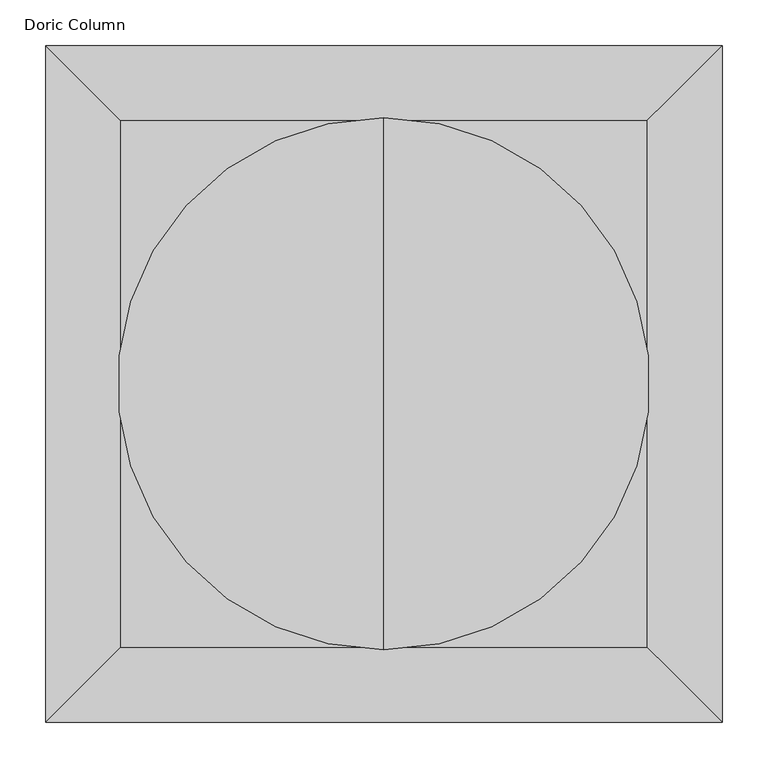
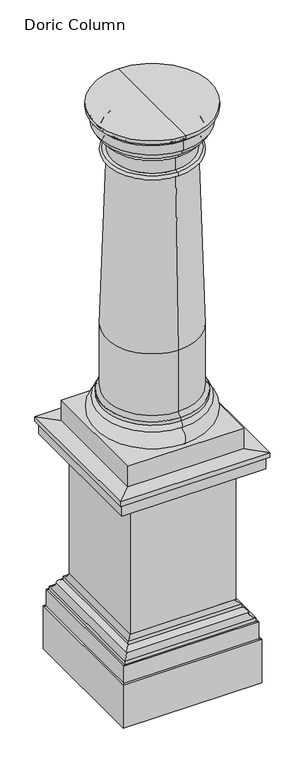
"""IFC4 building model written with IfcOpenShell, lengths in millimetres: column geometry, Doric Column : 16'  Height (10 2/3 x Dia.)."""

import ifcopenshell
import ifcopenshell.guid

model = None  # the IFC model being written
_history = None  # IfcOwnerHistory: only IFC2X3 demands one
_inside = {}  # id of a spatial element -> (the spatial element, [elements in it])
_under = {}  # id of a project, library or spatial element -> (it, [spatial elements below it])
_declared = {}  # id of a project -> (the project, [libraries it declares])
_typed = {}  # id of a type object -> (the type object, [elements of that type])
_made_of = {}  # id of a material, layer set ... -> (it, [elements and type objects made of it])


def new_model(schema):
    """Start an empty IFC model of exactly this schema.

    Asked for "IFC4X3", IfcOpenShell would pick the latest addendum, in which some entities
    have other attributes; the version numbers below select the first issue.
    IFC2X3 requires an IfcOwnerHistory on every rooted entity: one is made here for all.
    """
    global model, _history
    if schema == "IFC4X3":
        model = ifcopenshell.file(schema_version=(4, 3, 0, 0))
    else:
        model = ifcopenshell.file(schema=schema)
    _inside.clear()
    _under.clear()
    _declared.clear()
    _typed.clear()
    _made_of.clear()
    _history = None
    if model.schema == "IFC2X3":
        org = make("IfcOrganization", Name="unknown")
        user = make(
            "IfcPersonAndOrganization",
            ThePerson=make("IfcPerson", FamilyName="unknown"),
            TheOrganization=org,
        )
        app = make(
            "IfcApplication",
            ApplicationDeveloper=org,
            Version="unknown",
            ApplicationFullName="unknown",
            ApplicationIdentifier="unknown",
        )
        _history = make(
            "IfcOwnerHistory",
            OwningUser=user,
            OwningApplication=app,
            ChangeAction="ADDED",
            CreationDate=0,
        )
    return model


def make(cls, **values):
    """One entity of the class cls with the attributes given. An attribute that is None is left unset."""
    return model.create_entity(
        cls, **{name: value for name, value in values.items() if value is not None}
    )


def rooted(cls, **values):
    """An entity with a GlobalId (a new one), such as an element, a storey or a relation."""
    return make(cls, GlobalId=ifcopenshell.guid.new(), OwnerHistory=_history, **values)


def si_unit(unit_type, name, prefix=None):
    """IfcSIUnit, for example si_unit("LENGTHUNIT", "METRE", prefix="MILLI")."""
    return make("IfcSIUnit", UnitType=unit_type, Prefix=prefix, Name=name)


def assignment(units):
    """IfcUnitAssignment: the units of a project."""
    return None if units is None else make("IfcUnitAssignment", Units=units)


def point(xyz):
    """IfcCartesianPoint."""
    return None if xyz is None else make("IfcCartesianPoint", Coordinates=xyz)


def direction(xyz):
    """IfcDirection."""
    return None if xyz is None else make("IfcDirection", DirectionRatios=xyz)


def frame(location, z_axis=None, x_axis=None):
    """IfcAxis2Placement3D, a coordinate frame: its origin and axes. An axis left out is left unset."""
    return make(
        "IfcAxis2Placement3D",
        Location=point(location),
        Axis=direction(z_axis),
        RefDirection=direction(x_axis),
    )


def origin():
    """The frame at (0, 0, 0) with its axes left unset."""
    return frame((0.0, 0.0, 0.0))


def place(relative_to, where):
    """IfcLocalPlacement: puts the frame where relative to a parent placement (None: the world)."""
    return make(
        "IfcLocalPlacement", PlacementRelTo=relative_to, RelativePlacement=where
    )


def context(
    kind, dimensions, precision=None, world=None, true_north=None, identifier=None
):
    """IfcGeometricRepresentationContext, for example the 3D "Model" context."""
    return make(
        "IfcGeometricRepresentationContext",
        ContextIdentifier=identifier,
        ContextType=kind,
        CoordinateSpaceDimension=dimensions,
        Precision=precision,
        WorldCoordinateSystem=world,
        TrueNorth=true_north,
    )


def project(units=None, contexts=None):
    """IfcProject with its units and contexts."""
    return rooted(
        "IfcProject",
        Name="project",
        RepresentationContexts=contexts,
        UnitsInContext=assignment(units),
    )


def spatial(cls, under=None, at=None, **own):
    """A site, building, storey or space (cls), placed at a placement, below another one or the project."""
    s = rooted(cls, ObjectPlacement=at, **own)
    if under is not None:
        _under.setdefault(under.id(), (under, []))[1].append(s)
    return s


def polyline(points):
    """IfcPolyline through the points."""
    return make("IfcPolyline", Points=[point(p) for p in points])


def circle_curve(where, radius):
    """IfcCircle in the frame where."""
    return make("IfcCircle", Position=where, Radius=radius)


def ellipse_curve(where, semi_axis1, semi_axis2):
    """IfcEllipse in the frame where."""
    return make(
        "IfcEllipse", Position=where, SemiAxis1=semi_axis1, SemiAxis2=semi_axis2
    )


def trimmed(basis, trim1, trim2, sense, master):
    """IfcTrimmedCurve: the piece of a basis curve between two trims."""
    return make(
        "IfcTrimmedCurve",
        BasisCurve=basis,
        Trim1=trim1,
        Trim2=trim2,
        SenseAgreement=sense,
        MasterRepresentation=master,
    )


def outline(outer, holes=None, kind="AREA"):
    """IfcArbitraryClosedProfileDef: a profile drawn as a closed curve; with holes, ...WithVoids."""
    if holes is None:
        return make("IfcArbitraryClosedProfileDef", ProfileType=kind, OuterCurve=outer)
    return make(
        "IfcArbitraryProfileDefWithVoids",
        ProfileType=kind,
        OuterCurve=outer,
        InnerCurves=holes,
    )


def extrude(swept, where, along, depth):
    """IfcExtrudedAreaSolid: the profile swept, set in the frame where, extruded along a direction by depth."""
    return make(
        "IfcExtrudedAreaSolid",
        SweptArea=swept,
        Position=where,
        ExtrudedDirection=direction(along),
        Depth=depth,
    )


def faces_of(points, faces, orient=None, outer=None):
    """IfcFace entities. A face is a list of loops; a loop is a list of indices into points, from 0.

    orient and outer hold one flag for each loop. By default every Orientation is true, the
    first loop of a face is its IfcFaceOuterBound and the others are IfcFaceBound.
    """
    made = []
    for i, loops in enumerate(faces):
        bounds = []
        for j, loop in enumerate(loops):
            is_outer = j == 0 if outer is None else outer[i][j]
            bounds.append(
                make(
                    "IfcFaceOuterBound" if is_outer else "IfcFaceBound",
                    Bound=make("IfcPolyLoop", Polygon=[points[k] for k in loop]),
                    Orientation=True if orient is None else orient[i][j],
                )
            )
        made.append(make("IfcFace", Bounds=bounds))
    return made


def faceted_brep(points, faces, orient=None, outer=None, voids=None):
    """IfcFacetedBrep: a solid bounded by flat faces; with voids (closed shells), ...WithVoids."""
    shared = [point(p) for p in points]
    hull = make("IfcClosedShell", CfsFaces=faces_of(shared, faces, orient, outer))
    if voids is None:
        return make("IfcFacetedBrep", Outer=hull)
    return make(
        "IfcFacetedBrepWithVoids",
        Outer=hull,
        Voids=[
            make(cls, CfsFaces=faces_of(shared, fs, o, b)) for cls, fs, o, b in voids
        ],
    )


def shape(context_of_items, identifier, shape_type, items):
    """IfcShapeRepresentation: the items that make up one representation, for example the "Body"."""
    return make(
        "IfcShapeRepresentation",
        ContextOfItems=context_of_items,
        RepresentationIdentifier=identifier,
        RepresentationType=shape_type,
        Items=items,
    )


def source(mapping_origin, context_of_items, identifier, shape_type, items):
    """IfcRepresentationMap: a shape defined once, which mapped items show again and again."""
    return make(
        "IfcRepresentationMap",
        MappingOrigin=mapping_origin,
        MappedRepresentation=shape(context_of_items, identifier, shape_type, items),
    )


def transform(
    local_origin,
    x_axis=None,
    y_axis=None,
    z_axis=None,
    scale=None,
    scale2=None,
    scale3=None,
    uniform=True,
):
    """IfcCartesianTransformationOperator3D, or its non-uniform kind. x_axis, y_axis, z_axis: its Axis1, 2, 3."""
    if uniform:
        return make(
            "IfcCartesianTransformationOperator3D",
            Axis1=direction(x_axis),
            Axis2=direction(y_axis),
            LocalOrigin=point(local_origin),
            Scale=scale,
            Axis3=direction(z_axis),
        )
    return make(
        "IfcCartesianTransformationOperator3DnonUniform",
        Axis1=direction(x_axis),
        Axis2=direction(y_axis),
        LocalOrigin=point(local_origin),
        Scale=scale,
        Axis3=direction(z_axis),
        Scale2=scale2,
        Scale3=scale3,
    )


def mapped(mapping_source, mapping_target):
    """IfcMappedItem: shows the shape of a source again, moved by a transform."""
    return make(
        "IfcMappedItem", MappingSource=mapping_source, MappingTarget=mapping_target
    )


def made_of(thing, what):
    """Note that an element or type object is made of a material, layer set ...; save() writes the relation."""
    if what is not None:
        _made_of.setdefault(what.id(), (what, []))[1].append(thing)
    return thing


def element(
    cls,
    number,
    at=None,
    inside=None,
    cuts=None,
    type_object=None,
    material=None,
    context=None,
    identifier="Body",
    shape_type=None,
    held_by="IfcProductDefinitionShape",
    body=None,
    shapes=None,
    **own,
):
    """One element of the class cls, such as IfcWall. Its Tag is "e" and its number.

    at: its placement. inside: the storey or other place that contains it. cuts: it is an
    opening in that element (IfcRelVoidsElement). A single representation is given by context,
    identifier, shape_type and body (its items); several are given by shapes. held_by: the class
    of the entity that holds the representations. save() writes the other relations.
    """
    e = rooted(cls, Tag="e%d" % number, ObjectPlacement=at, **own)
    if body is not None:
        shapes = [shape(context, identifier, shape_type, body)]
    if shapes is not None:
        e.Representation = make(held_by, Representations=shapes)
    if inside is not None:
        _inside.setdefault(inside.id(), (inside, []))[1].append(e)
    if cuts is not None:
        rooted(
            "IfcRelVoidsElement", RelatingBuildingElement=cuts, RelatedOpeningElement=e
        )
    if type_object is not None:
        _typed.setdefault(type_object.id(), (type_object, []))[1].append(e)
    return made_of(e, material)


def aggregate(whole, parts):
    """IfcRelAggregates: a whole, such as a stair, and the parts it consists of."""
    return rooted("IfcRelAggregates", RelatingObject=whole, RelatedObjects=parts)


def save(model, path):
    """Write the relations noted so far, then the file.

    IfcRelAggregates (storeys below a building ...), IfcRelContainedInSpatialStructure (elements
    in a storey), IfcRelDefinesByType, IfcRelAssociatesMaterial and IfcRelDeclares: one each for
    every whole, place, type object, material and project.
    """
    for whole, parts in _under.values():
        aggregate(whole, parts)
    for where, things in _inside.values():
        rooted(
            "IfcRelContainedInSpatialStructure",
            RelatedElements=things,
            RelatingStructure=where,
        )
    for kind, things in _typed.values():
        rooted("IfcRelDefinesByType", RelatedObjects=things, RelatingType=kind)
    for what, things in _made_of.values():
        rooted("IfcRelAssociatesMaterial", RelatedObjects=things, RelatingMaterial=what)
    for by, libraries in _declared.values():
        rooted("IfcRelDeclares", RelatingContext=by, RelatedDefinitions=libraries)
    model.write(path)


def plane_surface(at):
    """IfcPlane: the flat surface through the origin of the frame at, square to its z axis."""
    return make("IfcPlane", Position=at)


def cylinder_surface(at, radius):
    """IfcCylindricalSurface: all points at the distance radius from the z axis of the frame at."""
    return make("IfcCylindricalSurface", Position=at, Radius=radius)


def revolved_surface(curve, axis_point, axis_direction):
    """IfcSurfaceOfRevolution: the curve turned about the line through axis_point along axis_direction."""
    return make(
        "IfcSurfaceOfRevolution",
        SweptCurve=make("IfcArbitraryOpenProfileDef", ProfileType="CURVE", Curve=curve),
        AxisPosition=make("IfcAxis1Placement", Location=point(axis_point), Axis=direction(axis_direction)),
    )


def advanced_brep(points, edges, surfaces, faces):
    """IfcAdvancedBrep: a solid bounded by faces that lie on surfaces and meet in shared edges.

    An edge is (start, end): straight between two places in points (the first is 0);
    or (start, end, curve); or (start, end, curve, False) where it runs against its curve.
    A face is (place in surfaces, loops), or (place, loops, False) where it looks against
    its surface's normal. A loop lists edges by number (the first is 1), with a minus sign
    where the edge is run from its end to its start. The first loop is the outer one.
    """
    corners = [point(p) for p in points]
    vertices = [make("IfcVertexPoint", VertexGeometry=c) for c in corners]
    made = []
    for start, end, *more in edges:
        made.append(
            make(
                "IfcEdgeCurve",
                EdgeStart=vertices[start],
                EdgeEnd=vertices[end],
                EdgeGeometry=more[0] if more else make("IfcPolyline", Points=[corners[start], corners[end]]),
                SameSense=more[1] if len(more) > 1 else True,
            )
        )
    hull = []
    for where, loops, *sense in faces:
        bounds = []
        for j, loop in enumerate(loops):
            ring = [make("IfcOrientedEdge", EdgeElement=made[abs(k) - 1], Orientation=k > 0) for k in loop]
            bounds.append(
                make(
                    "IfcFaceOuterBound" if j == 0 else "IfcFaceBound",
                    Bound=make("IfcEdgeLoop", EdgeList=ring),
                    Orientation=True,
                )
            )
        hull.append(make("IfcAdvancedFace", Bounds=bounds, FaceSurface=surfaces[where], SameSense=sense[0] if sense else True))
    return make("IfcAdvancedBrep", Outer=make("IfcClosedShell", CfsFaces=hull))


def doric_column_f5a78e18(model_context):
    return source(origin(), model_context, "Body", "SolidModel", [
        extrude(outline(polyline([(263.525, 263.525), (263.525, -263.525), (-263.525, -263.525), (-263.525, 263.525), (263.525, 263.525)])), frame((0.0, 0.0, 419.1), z_axis=(0.0, 0.0, 1.0), x_axis=(1.0, 0.0, 0.0)), (0.0, 0.0, 1.0), 685.8),
        advanced_brep(
        [(345.4451463, 345.4451463, 0.0), (345.4451463, 345.4451463, 228.6), (345.4451463, -345.4451463, 228.6), (345.4451463, -345.4451463, 0.0), (228.6, 228.6, 0.0), (228.6, -228.6, 0.0), (228.6, 228.6, 419.1), (228.6, -228.6, 419.1), (262.8951463, 262.8951463, 419.1), (262.8951463, -262.8951463, 419.1), (281.9451463, 281.9451463, 400.05), (281.9451463, -281.9451463, 400.05), (281.9451463, 281.9451463, 381.0), (281.9451463, -281.9451463, 381.0), (304.1701463, 304.1701463, 358.775), (304.1701463, -304.1701463, 358.775), (326.3951463, 326.3951463, 336.55), (326.3951463, -326.3951463, 336.55), (326.3951463, 326.3951463, 317.5), (326.3951463, -326.3951463, 317.5), (335.9201463, 335.9201463, 317.5), (335.9201463, -335.9201463, 317.5), (335.9201463, 335.9201463, 228.6), (335.9201463, -335.9201463, 228.6), (-345.4451463, -345.4451463, 228.6), (-345.4451463, -345.4451463, 0.0), (-228.6, -228.6, 0.0), (-228.6, -228.6, 419.1), (-262.8951463, -262.8951463, 419.1), (-281.9451463, -281.9451463, 400.05), (-281.9451463, -281.9451463, 381.0), (-304.1701463, -304.1701463, 358.775), (-326.3951463, -326.3951463, 336.55), (-326.3951463, -326.3951463, 317.5), (-335.9201463, -335.9201463, 317.5), (-335.9201463, -335.9201463, 228.6), (-345.4451463, 345.4451463, 228.6), (-345.4451463, 345.4451463, 0.0), (-228.6, 228.6, 0.0), (-228.6, 228.6, 419.1), (-262.8951463, 262.8951463, 419.1), (-281.9451463, 281.9451463, 400.05), (-281.9451463, 281.9451463, 381.0), (-304.1701463, 304.1701463, 358.775), (-326.3951463, 326.3951463, 336.55), (-326.3951463, 326.3951463, 317.5), (-335.9201463, 335.9201463, 317.5), (-335.9201463, 335.9201463, 228.6)],
        [
            (0, 1),
            (1, 2),
            (2, 3),
            (3, 0),
            (4, 0),
            (3, 5),
            (5, 4),
            (6, 4),
            (5, 7),
            (7, 6),
            (8, 6),
            (7, 9),
            (9, 8),
            (10, 8, ellipse_curve(frame((281.9451463, 281.9451463, 419.1), z_axis=(-0.7071067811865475, 0.7071067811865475, 0.0), x_axis=(-0.7071067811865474, -0.7071067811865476, 0.0)), 26.9407684, 19.05)),
            (9, 11, ellipse_curve(frame((281.9451463, -281.9451463, 419.1), z_axis=(-0.7071067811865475, -0.7071067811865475, 0.0), x_axis=(0.7071067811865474, -0.7071067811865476, 0.0)), 26.9407684, 19.05)),
            (11, 10),
            (12, 10),
            (11, 13),
            (13, 12),
            (14, 12, ellipse_curve(frame((281.9451463, 281.9451463, 358.775), z_axis=(0.7071067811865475, -0.7071067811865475, 0.0), x_axis=(0.7071067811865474, 0.7071067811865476, 0.0)), 31.4308964, 22.225)),
            (13, 15, ellipse_curve(frame((281.9451463, -281.9451463, 358.775), z_axis=(0.7071067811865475, 0.7071067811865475, 0.0), x_axis=(-0.7071067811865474, 0.7071067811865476, 0.0)), 31.4308964, 22.225)),
            (15, 14),
            (16, 14, ellipse_curve(frame((326.3951463, 326.3951463, 358.775), z_axis=(-0.7071067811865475, 0.7071067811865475, 0.0), x_axis=(-0.7071067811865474, -0.7071067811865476, 0.0)), 31.4308964, 22.225)),
            (15, 17, ellipse_curve(frame((326.3951463, -326.3951463, 358.775), z_axis=(-0.7071067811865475, -0.7071067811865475, 0.0), x_axis=(0.7071067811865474, -0.7071067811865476, 0.0)), 31.4308964, 22.225)),
            (17, 16),
            (18, 16),
            (17, 19),
            (19, 18),
            (20, 18),
            (19, 21),
            (21, 20),
            (22, 20),
            (21, 23),
            (23, 22),
            (1, 22),
            (23, 2),
            (2, 24),
            (24, 25),
            (25, 3),
            (25, 26),
            (26, 5),
            (26, 27),
            (27, 7),
            (27, 28),
            (28, 9),
            (28, 29, ellipse_curve(frame((-281.9451463, -281.9451463, 419.1), z_axis=(-0.7071067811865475, 0.7071067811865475, 0.0), x_axis=(-0.7071067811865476, -0.7071067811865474, 0.0)), 26.9407684, 19.05)),
            (29, 11),
            (29, 30),
            (30, 13),
            (30, 31, ellipse_curve(frame((-281.9451463, -281.9451463, 358.775), z_axis=(0.7071067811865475, -0.7071067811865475, 0.0), x_axis=(0.7071067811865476, 0.7071067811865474, 0.0)), 31.4308964, 22.225)),
            (31, 15),
            (31, 32, ellipse_curve(frame((-326.3951463, -326.3951463, 358.775), z_axis=(-0.7071067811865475, 0.7071067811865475, 0.0), x_axis=(-0.7071067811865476, -0.7071067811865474, 0.0)), 31.4308964, 22.225)),
            (32, 17),
            (32, 33),
            (33, 19),
            (33, 34),
            (34, 21),
            (34, 35),
            (35, 23),
            (35, 24),
            (24, 36),
            (36, 37),
            (37, 25),
            (37, 38),
            (38, 26),
            (38, 39),
            (39, 27),
            (39, 40),
            (40, 28),
            (40, 41, ellipse_curve(frame((-281.9451463, 281.9451463, 419.1), z_axis=(0.7071067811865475, 0.7071067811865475, 0.0), x_axis=(-0.7071067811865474, 0.7071067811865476, 0.0)), 26.9407684, 19.05)),
            (41, 29),
            (41, 42),
            (42, 30),
            (42, 43, ellipse_curve(frame((-281.9451463, 281.9451463, 358.775), z_axis=(-0.7071067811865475, -0.7071067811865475, 0.0), x_axis=(0.7071067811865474, -0.7071067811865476, 0.0)), 31.4308964, 22.225)),
            (43, 31),
            (43, 44, ellipse_curve(frame((-326.3951463, 326.3951463, 358.775), z_axis=(0.7071067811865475, 0.7071067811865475, 0.0), x_axis=(-0.7071067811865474, 0.7071067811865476, 0.0)), 31.4308964, 22.225)),
            (44, 32),
            (44, 45),
            (45, 33),
            (45, 46),
            (46, 34),
            (46, 47),
            (47, 35),
            (47, 36),
            (36, 1),
            (0, 37),
            (4, 38),
            (6, 39),
            (8, 40),
            (10, 41),
            (12, 42),
            (14, 43),
            (16, 44),
            (18, 45),
            (20, 46),
            (22, 47),
        ],
        [
            plane_surface(frame((345.4451463, 345.4451463, 228.6), z_axis=(1.0, 0.0, 0.0), x_axis=(0.0, -1.0, 0.0))),
            plane_surface(frame((345.4451463, 345.4451463, 0.0), z_axis=(0.0, 0.0, -1.0), x_axis=(0.0, -1.0, 0.0))),
            plane_surface(frame((228.6, 228.6, 0.0), z_axis=(-1.0, 0.0, 0.0), x_axis=(0.0, -1.0, 0.0))),
            plane_surface(frame((228.6, 228.6, 419.1), z_axis=(0.0, 0.0, 1.0), x_axis=(0.0, -1.0, 0.0))),
            revolved_surface(polyline([(300.9951463, -300.9951463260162, 419.1), (300.9951463, 300.99514632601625, 419.1)]), (281.9451463, 358.4600732, 419.1), (0.0, -1.0, 0.0)),
            plane_surface(frame((281.9451463, 281.9451463, 400.05), z_axis=(1.0, 0.0, 0.0), x_axis=(0.0, -1.0, 0.0))),
            cylinder_surface(frame((281.9451463, 358.4600732, 358.775), z_axis=(0.0, 1.0, 0.0), x_axis=(1.0, 0.0, 0.0)), 22.225),
            revolved_surface(polyline([(348.62014630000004, -348.62014628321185, 358.775), (348.62014630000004, 348.62014628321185, 358.775)]), (326.3951463, 358.4600732, 358.775), (0.0, -1.0, 0.0)),
            plane_surface(frame((326.3951463, 326.3951463, 336.55), z_axis=(1.0, 0.0, 0.0), x_axis=(0.0, -1.0, 0.0))),
            plane_surface(frame((326.3951463, 326.3951463, 317.5), z_axis=(0.0, 0.0, 1.0), x_axis=(0.0, -1.0, 0.0))),
            plane_surface(frame((335.9201463, 335.9201463, 317.5), z_axis=(1.0, 0.0, 0.0), x_axis=(0.0, -1.0, 0.0))),
            plane_surface(frame((335.9201463, 335.9201463, 228.6), z_axis=(0.0, 0.0, 1.0), x_axis=(0.0, -1.0, 0.0))),
            plane_surface(frame((345.4451463, -345.4451463, 228.6), z_axis=(0.0, -1.0, 0.0), x_axis=(-1.0, 0.0, 0.0))),
            plane_surface(frame((345.4451463, -345.4451463, 0.0), z_axis=(0.0, 0.0, -1.0), x_axis=(-1.0, 0.0, 0.0))),
            plane_surface(frame((228.6, -228.6, 0.0), z_axis=(0.0, 1.0, 0.0), x_axis=(-1.0, 0.0, 0.0))),
            plane_surface(frame((228.6, -228.6, 419.1), z_axis=(0.0, 0.0, 1.0), x_axis=(-1.0, 0.0, 0.0))),
            revolved_surface(polyline([(-300.9951463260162, -300.9951463, 419.1), (300.9951463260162, -300.9951463, 419.1)]), (358.4600732, -281.9451463, 419.1), (-1.0, 0.0, 0.0)),
            plane_surface(frame((281.9451463, -281.9451463, 400.05), z_axis=(0.0, -1.0, 0.0), x_axis=(-1.0, 0.0, 0.0))),
            cylinder_surface(frame((358.4600732, -281.9451463, 358.775), z_axis=(1.0, 0.0, 0.0), x_axis=(0.0, -1.0, 0.0)), 22.225),
            revolved_surface(polyline([(-348.62014628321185, -348.62014630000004, 358.775), (348.62014628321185, -348.62014630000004, 358.775)]), (358.4600732, -326.3951463, 358.775), (-1.0, 0.0, 0.0)),
            plane_surface(frame((326.3951463, -326.3951463, 336.55), z_axis=(0.0, -1.0, 0.0), x_axis=(-1.0, 0.0, 0.0))),
            plane_surface(frame((326.3951463, -326.3951463, 317.5), z_axis=(0.0, 0.0, 1.0), x_axis=(-1.0, 0.0, 0.0))),
            plane_surface(frame((335.9201463, -335.9201463, 317.5), z_axis=(0.0, -1.0, 0.0), x_axis=(-1.0, 0.0, 0.0))),
            plane_surface(frame((335.9201463, -335.9201463, 228.6), z_axis=(0.0, 0.0, 1.0), x_axis=(-1.0, 0.0, 0.0))),
            plane_surface(frame((-345.4451463, -345.4451463, 228.6), z_axis=(-1.0, 0.0, 0.0), x_axis=(0.0, 1.0, 0.0))),
            plane_surface(frame((-345.4451463, -345.4451463, 0.0), z_axis=(0.0, 0.0, -1.0), x_axis=(0.0, 1.0, 0.0))),
            plane_surface(frame((-228.6, -228.6, 0.0), z_axis=(1.0, 0.0, 0.0), x_axis=(0.0, 1.0, 0.0))),
            plane_surface(frame((-228.6, -228.6, 419.1), z_axis=(0.0, 0.0, 1.0), x_axis=(0.0, 1.0, 0.0))),
            revolved_surface(polyline([(-300.9951463, 300.9951463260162, 419.1), (-300.9951463, -300.9951463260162, 419.1)]), (-281.9451463, -358.4600732, 419.1), (0.0, 1.0, 0.0)),
            plane_surface(frame((-281.9451463, -281.9451463, 400.05), z_axis=(-1.0, 0.0, 0.0), x_axis=(0.0, 1.0, 0.0))),
            cylinder_surface(frame((-281.9451463, -358.4600732, 358.775), z_axis=(0.0, -1.0, 0.0), x_axis=(-1.0, 0.0, 0.0)), 22.225),
            revolved_surface(polyline([(-348.62014630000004, 348.62014628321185, 358.775), (-348.62014630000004, -348.62014628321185, 358.775)]), (-326.3951463, -358.4600732, 358.775), (0.0, 1.0, 0.0)),
            plane_surface(frame((-326.3951463, -326.3951463, 336.55), z_axis=(-1.0, 0.0, 0.0), x_axis=(0.0, 1.0, 0.0))),
            plane_surface(frame((-326.3951463, -326.3951463, 317.5), z_axis=(0.0, 0.0, 1.0), x_axis=(0.0, 1.0, 0.0))),
            plane_surface(frame((-335.9201463, -335.9201463, 317.5), z_axis=(-1.0, 0.0, 0.0), x_axis=(0.0, 1.0, 0.0))),
            plane_surface(frame((-335.9201463, -335.9201463, 228.6), z_axis=(0.0, 0.0, 1.0), x_axis=(0.0, 1.0, 0.0))),
            plane_surface(frame((-345.4451463, 345.4451463, 228.6), z_axis=(0.0, 1.0, 0.0), x_axis=(1.0, 0.0, 0.0))),
            plane_surface(frame((-345.4451463, 345.4451463, 0.0), z_axis=(0.0, 0.0, -1.0), x_axis=(1.0, 0.0, 0.0))),
            plane_surface(frame((-228.6, 228.6, 0.0), z_axis=(0.0, -1.0, 0.0), x_axis=(1.0, 0.0, 0.0))),
            plane_surface(frame((-228.6, 228.6, 419.1), z_axis=(0.0, 0.0, 1.0), x_axis=(1.0, 0.0, 0.0))),
            revolved_surface(polyline([(300.9951463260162, 300.9951463, 419.1), (-300.9951463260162, 300.9951463, 419.1)]), (-358.4600732, 281.9451463, 419.1), (1.0, 0.0, 0.0)),
            plane_surface(frame((-281.9451463, 281.9451463, 400.05), z_axis=(0.0, 1.0, 0.0), x_axis=(1.0, 0.0, 0.0))),
            cylinder_surface(frame((-358.4600732, 281.9451463, 358.775), z_axis=(-1.0, 0.0, 0.0), x_axis=(0.0, 1.0, 0.0)), 22.225),
            revolved_surface(polyline([(348.62014628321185, 348.62014630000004, 358.775), (-348.62014628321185, 348.62014630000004, 358.775)]), (-358.4600732, 326.3951463, 358.775), (1.0, 0.0, 0.0)),
            plane_surface(frame((-326.3951463, 326.3951463, 336.55), z_axis=(0.0, 1.0, 0.0), x_axis=(1.0, 0.0, 0.0))),
            plane_surface(frame((-326.3951463, 326.3951463, 317.5), z_axis=(0.0, 0.0, 1.0), x_axis=(1.0, 0.0, 0.0))),
            plane_surface(frame((-335.9201463, 335.9201463, 317.5), z_axis=(0.0, 1.0, 0.0), x_axis=(1.0, 0.0, 0.0))),
            plane_surface(frame((-335.9201463, 335.9201463, 228.6), z_axis=(0.0, 0.0, 1.0), x_axis=(1.0, 0.0, 0.0))),
        ],
        [
            (0, [[1, 2, 3, 4]]),
            (1, [[5, -4, 6, 7]]),
            (2, [[8, -7, 9, 10]]),
            (3, [[11, -10, 12, 13]]),
            (4, [[14, -13, 15, 16]]),
            (5, [[17, -16, 18, 19]]),
            (6, [[20, -19, 21, 22]]),
            (7, [[23, -22, 24, 25]]),
            (8, [[26, -25, 27, 28]]),
            (9, [[29, -28, 30, 31]]),
            (10, [[32, -31, 33, 34]]),
            (11, [[35, -34, 36, -2]]),
            (12, [[-3, 37, 38, 39]]),
            (13, [[-6, -39, 40, 41]]),
            (14, [[-9, -41, 42, 43]]),
            (15, [[-12, -43, 44, 45]]),
            (16, [[-15, -45, 46, 47]]),
            (17, [[-18, -47, 48, 49]]),
            (18, [[-21, -49, 50, 51]]),
            (19, [[-24, -51, 52, 53]]),
            (20, [[-27, -53, 54, 55]]),
            (21, [[-30, -55, 56, 57]]),
            (22, [[-33, -57, 58, 59]]),
            (23, [[-36, -59, 60, -37]]),
            (24, [[-38, 61, 62, 63]]),
            (25, [[-40, -63, 64, 65]]),
            (26, [[-42, -65, 66, 67]]),
            (27, [[-44, -67, 68, 69]]),
            (28, [[-46, -69, 70, 71]]),
            (29, [[-48, -71, 72, 73]]),
            (30, [[-50, -73, 74, 75]]),
            (31, [[-52, -75, 76, 77]]),
            (32, [[-54, -77, 78, 79]]),
            (33, [[-56, -79, 80, 81]]),
            (34, [[-58, -81, 82, 83]]),
            (35, [[-60, -83, 84, -61]]),
            (36, [[-62, 85, -1, 86]]),
            (37, [[-64, -86, -5, 87]]),
            (38, [[-66, -87, -8, 88]]),
            (39, [[-68, -88, -11, 89]]),
            (40, [[-70, -89, -14, 90]]),
            (41, [[-72, -90, -17, 91]]),
            (42, [[-74, -91, -20, 92]]),
            (43, [[-76, -92, -23, 93]]),
            (44, [[-78, -93, -26, 94]]),
            (45, [[-80, -94, -29, 95]]),
            (46, [[-82, -95, -32, 96]]),
            (47, [[-84, -96, -35, -85]]),
        ],
    ),
        advanced_brep(
        [(0.0, -247.65, 1460.5), (0.0, 247.65, 1460.5), (0.0, 228.6, 1479.55), (0.0, -228.6, 1479.55), (0.0, 228.6, 1803.4), (0.0, -228.6, 1803.4), (0.0, -247.65, 1441.45), (0.0, 247.65, 1441.45), (0.0, -247.65, 1409.7), (0.0, 247.65, 1409.7), (0.0, -247.65, 1327.15), (0.0, 247.65, 1327.15), (0.0, 0.0, 1327.15), (0.0, 200.025, 2717.8), (0.0, -200.025, 2717.8), (0.0, -292.1, 2952.7500601), (0.0, 292.1, 2952.7500601), (0.0, 292.1, 2971.8), (0.0, -292.1, 2971.8), (0.0, 0.0, 2971.8), (0.0, -273.0499399, 2933.7), (0.0, 273.0499399, 2933.7), (0.0, -269.875, 2933.7), (0.0, 269.875, 2933.7), (0.0, -269.875, 2882.9), (0.0, 269.875, 2882.9), (0.0, -263.525, 2882.9), (0.0, 263.525, 2882.9), (0.0, -219.075, 2838.45), (0.0, 219.075, 2838.45), (0.0, -219.075, 2819.4), (0.0, 219.075, 2819.4), (0.0, -200.025, 2819.4), (0.0, 200.025, 2819.4), (0.0, -200.025, 2736.85), (0.0, 200.025, 2736.85), (0.0, -219.075, 2736.85), (0.0, 219.075, 2736.85), (0.0, -219.075, 2717.8), (0.0, 219.075, 2717.8)],
        [
            (0, 1, circle_curve(frame((0.0, 0.0, 1460.5), z_axis=(0.0, 0.0, 1.0), x_axis=(0.0, 1.0, 0.0)), 247.65)),
            (1, 2, circle_curve(frame((0.0, 247.65, 1479.55), z_axis=(-1.0, 0.0, 0.0), x_axis=(0.0, -1.0, 0.0)), 19.05)),
            (2, 3, circle_curve(frame((0.0, 0.0, 1479.55), z_axis=(0.0, 0.0, -1.0), x_axis=(0.0, 1.0, 0.0)), 228.6)),
            (3, 0, circle_curve(frame((0.0, -247.65, 1479.55), z_axis=(-1.0, 0.0, 0.0), x_axis=(0.0, 1.0, 0.0)), 19.05)),
            (2, 4),
            (4, 5, circle_curve(frame((0.0, 0.0, 1803.4), z_axis=(0.0, 0.0, -1.0), x_axis=(0.0, 1.0, 0.0)), 228.6)),
            (5, 3),
            (2, 3, circle_curve(frame((0.0, 0.0, 1479.55), z_axis=(0.0, 0.0, 1.0), x_axis=(0.0, 1.0, 0.0)), 228.6)),
            (5, 4, circle_curve(frame((0.0, 0.0, 1803.4), z_axis=(0.0, 0.0, -1.0), x_axis=(0.0, 1.0, 0.0)), 228.6)),
            (1, 0, circle_curve(frame((0.0, 0.0, 1460.5), z_axis=(0.0, 0.0, 1.0), x_axis=(0.0, 1.0, 0.0)), 247.65)),
            (6, 7, circle_curve(frame((0.0, 0.0, 1441.45), z_axis=(0.0, 0.0, 1.0), x_axis=(0.0, 1.0, 0.0)), 247.65)),
            (7, 1),
            (0, 6),
            (7, 6, circle_curve(frame((0.0, 0.0, 1441.45), z_axis=(0.0, 0.0, 1.0), x_axis=(0.0, 1.0, 0.0)), 247.65)),
            (8, 9, circle_curve(frame((0.0, 0.0, 1409.7), z_axis=(0.0, 0.0, 1.0), x_axis=(0.0, 1.0, 0.0)), 247.65)),
            (9, 7, circle_curve(frame((0.0, 247.65, 1425.575), z_axis=(1.0, 0.0, 0.0), x_axis=(0.0, -1.0, 0.0)), 15.875)),
            (6, 8, circle_curve(frame((0.0, -247.65, 1425.575), z_axis=(1.0, 0.0, 0.0), x_axis=(0.0, 1.0, 0.0)), 15.875)),
            (9, 8, circle_curve(frame((0.0, 0.0, 1409.7), z_axis=(0.0, 0.0, 1.0), x_axis=(0.0, 1.0, 0.0)), 247.65)),
            (10, 11, circle_curve(frame((0.0, 0.0, 1327.15), z_axis=(0.0, 0.0, 1.0), x_axis=(0.0, 1.0, 0.0)), 247.65)),
            (11, 9, circle_curve(frame((0.0, 247.65, 1368.425), z_axis=(1.0, 0.0, 0.0), x_axis=(0.0, -1.0, 0.0)), 41.275)),
            (8, 10, circle_curve(frame((0.0, -247.65, 1368.425), z_axis=(1.0, 0.0, 0.0), x_axis=(0.0, 1.0, 0.0)), 41.275)),
            (11, 10, circle_curve(frame((0.0, 0.0, 1327.15), z_axis=(0.0, 0.0, 1.0), x_axis=(0.0, 1.0, 0.0)), 247.65)),
            (12, 11),
            (10, 12),
            (4, 13),
            (13, 14, circle_curve(frame((0.0, 0.0, 2717.8), z_axis=(0.0, 0.0, -1.0), x_axis=(0.0, 1.0, 0.0)), 200.025)),
            (14, 5),
            (14, 13, circle_curve(frame((0.0, 0.0, 2717.8), z_axis=(0.0, 0.0, -1.0), x_axis=(0.0, 1.0, 0.0)), 200.025)),
            (15, 16, circle_curve(frame((0.0, 0.0, 2952.7500601), z_axis=(0.0, 0.0, 1.0), x_axis=(0.0, 1.0, 0.0)), 292.1)),
            (16, 17),
            (17, 18, circle_curve(frame((0.0, 0.0, 2971.8), z_axis=(0.0, 0.0, -1.0), x_axis=(0.0, 1.0, 0.0)), 292.1)),
            (18, 15),
            (17, 19),
            (19, 18),
            (17, 18, circle_curve(frame((0.0, 0.0, 2971.8), z_axis=(0.0, 0.0, 1.0), x_axis=(0.0, 1.0, 0.0)), 292.1)),
            (16, 15, circle_curve(frame((0.0, 0.0, 2952.7500601), z_axis=(0.0, 0.0, 1.0), x_axis=(0.0, 1.0, 0.0)), 292.1)),
            (20, 21, circle_curve(frame((0.0, 0.0, 2933.7), z_axis=(0.0, 0.0, 1.0), x_axis=(0.0, 1.0, 0.0)), 273.0499399)),
            (21, 16, circle_curve(frame((0.0, 292.1, 2933.7), z_axis=(-1.0, 0.0, 0.0), x_axis=(0.0, -1.0, 0.0)), 19.0500601)),
            (15, 20, circle_curve(frame((0.0, -292.1, 2933.7), z_axis=(-1.0, 0.0, 0.0), x_axis=(0.0, 1.0, 0.0)), 19.0500601)),
            (21, 20, circle_curve(frame((0.0, 0.0, 2933.7), z_axis=(0.0, 0.0, 1.0), x_axis=(0.0, 1.0, 0.0)), 273.0499399)),
            (22, 23, circle_curve(frame((0.0, 0.0, 2933.7), z_axis=(0.0, 0.0, 1.0), x_axis=(0.0, 1.0, 0.0)), 269.875)),
            (23, 21),
            (20, 22),
            (23, 22, circle_curve(frame((0.0, 0.0, 2933.7), z_axis=(0.0, 0.0, 1.0), x_axis=(0.0, 1.0, 0.0)), 269.875)),
            (24, 25, circle_curve(frame((0.0, 0.0, 2882.9), z_axis=(0.0, 0.0, 1.0), x_axis=(0.0, 1.0, 0.0)), 269.875)),
            (25, 23),
            (22, 24),
            (25, 24, circle_curve(frame((0.0, 0.0, 2882.9), z_axis=(0.0, 0.0, 1.0), x_axis=(0.0, 1.0, 0.0)), 269.875)),
            (26, 27, circle_curve(frame((0.0, 0.0, 2882.9), z_axis=(0.0, 0.0, 1.0), x_axis=(0.0, 1.0, 0.0)), 263.525)),
            (27, 25),
            (24, 26),
            (27, 26, circle_curve(frame((0.0, 0.0, 2882.9), z_axis=(0.0, 0.0, 1.0), x_axis=(0.0, 1.0, 0.0)), 263.525)),
            (28, 29, circle_curve(frame((0.0, 0.0, 2838.45), z_axis=(0.0, 0.0, 1.0), x_axis=(0.0, 1.0, 0.0)), 219.075)),
            (29, 27, circle_curve(frame((0.0, 219.075, 2882.9), z_axis=(1.0, 0.0, 0.0), x_axis=(0.0, -1.0, 0.0)), 44.45)),
            (26, 28, circle_curve(frame((0.0, -219.075, 2882.9), z_axis=(1.0, 0.0, 0.0), x_axis=(0.0, 1.0, 0.0)), 44.45)),
            (29, 28, circle_curve(frame((0.0, 0.0, 2838.45), z_axis=(0.0, 0.0, 1.0), x_axis=(0.0, 1.0, 0.0)), 219.075)),
            (30, 31, circle_curve(frame((0.0, 0.0, 2819.4), z_axis=(0.0, 0.0, 1.0), x_axis=(0.0, 1.0, 0.0)), 219.075)),
            (31, 29, circle_curve(frame((0.0, 219.075, 2828.925), z_axis=(1.0, 0.0, 0.0), x_axis=(0.0, -1.0, 0.0)), 9.525)),
            (28, 30, circle_curve(frame((0.0, -219.075, 2828.925), z_axis=(1.0, 0.0, 0.0), x_axis=(0.0, 1.0, 0.0)), 9.525)),
            (31, 30, circle_curve(frame((0.0, 0.0, 2819.4), z_axis=(0.0, 0.0, 1.0), x_axis=(0.0, 1.0, 0.0)), 219.075)),
            (32, 33, circle_curve(frame((0.0, 0.0, 2819.4), z_axis=(0.0, 0.0, 1.0), x_axis=(0.0, 1.0, 0.0)), 200.025)),
            (33, 31),
            (30, 32),
            (33, 32, circle_curve(frame((0.0, 0.0, 2819.4), z_axis=(0.0, 0.0, 1.0), x_axis=(0.0, 1.0, 0.0)), 200.025)),
            (34, 35, circle_curve(frame((0.0, 0.0, 2736.85), z_axis=(0.0, 0.0, 1.0), x_axis=(0.0, 1.0, 0.0)), 200.025)),
            (35, 33),
            (32, 34),
            (35, 34, circle_curve(frame((0.0, 0.0, 2736.85), z_axis=(0.0, 0.0, 1.0), x_axis=(0.0, 1.0, 0.0)), 200.025)),
            (36, 37, circle_curve(frame((0.0, 0.0, 2736.85), z_axis=(0.0, 0.0, 1.0), x_axis=(0.0, 1.0, 0.0)), 219.075)),
            (37, 35),
            (34, 36),
            (37, 36, circle_curve(frame((0.0, 0.0, 2736.85), z_axis=(0.0, 0.0, 1.0), x_axis=(0.0, 1.0, 0.0)), 219.075)),
            (38, 39, circle_curve(frame((0.0, 0.0, 2717.8), z_axis=(0.0, 0.0, 1.0), x_axis=(0.0, 1.0, 0.0)), 219.075)),
            (39, 37, circle_curve(frame((0.0, 219.075, 2727.325), z_axis=(1.0, 0.0, 0.0), x_axis=(0.0, -1.0, 0.0)), 9.525)),
            (36, 38, circle_curve(frame((0.0, -219.075, 2727.325), z_axis=(1.0, 0.0, 0.0), x_axis=(0.0, 1.0, 0.0)), 9.525)),
            (39, 38, circle_curve(frame((0.0, 0.0, 2717.8), z_axis=(0.0, 0.0, 1.0), x_axis=(0.0, 1.0, 0.0)), 219.075)),
            (13, 39),
            (38, 14),
        ],
        [
            revolved_surface(trimmed(ellipse_curve(frame((0.0, 247.65, 1479.55), z_axis=(1.0, 0.0, 0.0), x_axis=(0.0, -1.0, 0.0)), 19.05, 19.05), [point((0.0, 228.6, 1479.55))], [point((0.0, 247.65, 1460.5))], True, "CARTESIAN"), (0.0, 0.0, 2971.8), (0.0, 0.0, -1.0)),
            cylinder_surface(frame((0.0, 0.0, 2971.8), z_axis=(0.0, 0.0, -1.0), x_axis=(0.0, 1.0, 0.0)), 228.6),
            cylinder_surface(frame((0.0, 0.0, 2971.8), z_axis=(0.0, 0.0, -1.0), x_axis=(0.0, 1.0, 0.0)), 247.65),
            revolved_surface(trimmed(ellipse_curve(frame((0.0, 247.65, 1425.575), z_axis=(-1.0, 0.0, 0.0), x_axis=(0.0, -1.0, 0.0)), 15.875, 15.875), [point((0.0, 247.65, 1441.45))], [point((0.0, 247.65, 1409.7))], True, "CARTESIAN"), (0.0, 0.0, 2971.8), (0.0, 0.0, -1.0)),
            revolved_surface(trimmed(ellipse_curve(frame((0.0, 247.65, 1368.425), z_axis=(-1.0, 0.0, 0.0), x_axis=(0.0, -1.0, 0.0)), 41.275, 41.275), [point((0.0, 247.65, 1409.7))], [point((0.0, 247.65, 1327.15))], True, "CARTESIAN"), (0.0, 0.0, 2971.8), (0.0, 0.0, -1.0)),
            plane_surface(frame((0.0, 0.0, 1327.15), z_axis=(0.0, 0.0, -1.0), x_axis=(0.0, 1.0, 0.0))),
            revolved_surface(polyline([(0.0, 200.025, 2717.8), (0.0, 228.6, 1803.4)]), (0.0, 0.0, 2971.8), (0.0, 0.0, -1.0)),
            cylinder_surface(frame((0.0, 0.0, 2971.8), z_axis=(0.0, 0.0, -1.0), x_axis=(0.0, 1.0, 0.0)), 292.1),
            plane_surface(frame((0.0, 0.0, 2971.8), z_axis=(0.0, 0.0, 1.0), x_axis=(0.0, 1.0, 0.0))),
            revolved_surface(trimmed(ellipse_curve(frame((0.0, 292.1, 2933.7), z_axis=(1.0, 0.0, 0.0), x_axis=(0.0, -1.0, 0.0)), 19.0500601, 19.0500601), [point((0.0, 292.1, 2952.7500601))], [point((0.0, 273.0499399, 2933.7))], True, "CARTESIAN"), (0.0, 0.0, 2971.8), (0.0, 0.0, -1.0)),
            plane_surface(frame((0.0, 0.0, 2933.7), z_axis=(0.0, 0.0, -1.0), x_axis=(0.0, 1.0, 0.0))),
            cylinder_surface(frame((0.0, 0.0, 2971.8), z_axis=(0.0, 0.0, -1.0), x_axis=(0.0, 1.0, 0.0)), 269.875),
            plane_surface(frame((0.0, 0.0, 2882.9), z_axis=(0.0, 0.0, -1.0), x_axis=(0.0, 1.0, 0.0))),
            revolved_surface(trimmed(ellipse_curve(frame((0.0, 219.075, 2882.9), z_axis=(-1.0, 0.0, 0.0), x_axis=(0.0, -1.0, 0.0)), 44.45, 44.45), [point((0.0, 263.525, 2882.9))], [point((0.0, 219.075, 2838.45))], True, "CARTESIAN"), (0.0, 0.0, 2971.8), (0.0, 0.0, -1.0)),
            revolved_surface(trimmed(ellipse_curve(frame((0.0, 219.075, 2828.925), z_axis=(-1.0, 0.0, 0.0), x_axis=(0.0, -1.0, 0.0)), 9.525, 9.525), [point((0.0, 219.075, 2838.45))], [point((0.0, 219.075, 2819.4))], True, "CARTESIAN"), (0.0, 0.0, 2971.8), (0.0, 0.0, -1.0)),
            plane_surface(frame((0.0, 0.0, 2819.4), z_axis=(0.0, 0.0, -1.0), x_axis=(0.0, 1.0, 0.0))),
            cylinder_surface(frame((0.0, 0.0, 2971.8), z_axis=(0.0, 0.0, -1.0), x_axis=(0.0, 1.0, 0.0)), 200.025),
            plane_surface(frame((0.0, 0.0, 2736.85), z_axis=(0.0, 0.0, 1.0), x_axis=(0.0, 1.0, 0.0))),
            revolved_surface(trimmed(ellipse_curve(frame((0.0, 219.075, 2727.325), z_axis=(-1.0, 0.0, 0.0), x_axis=(0.0, -1.0, 0.0)), 9.525, 9.525), [point((0.0, 219.075, 2736.85))], [point((0.0, 219.075, 2717.8))], True, "CARTESIAN"), (0.0, 0.0, 2971.8), (0.0, 0.0, -1.0)),
            plane_surface(frame((0.0, 0.0, 2717.8), z_axis=(0.0, 0.0, -1.0), x_axis=(0.0, 1.0, 0.0))),
        ],
        [
            (0, [[1, 2, 3, 4]]),
            (1, [[-3, 5, 6, 7]]),
            (1, [[8, -7, 9, -5]]),
            (0, [[10, -4, -8, -2]]),
            (2, [[11, 12, -1, 13]]),
            (2, [[14, -13, -10, -12]]),
            (3, [[15, 16, -11, 17]]),
            (3, [[18, -17, -14, -16]]),
            (4, [[19, 20, -15, 21]]),
            (4, [[22, -21, -18, -20]]),
            (5, [[23, -19, 24]]),
            (5, [[-24, -22, -23]]),
            (6, [[-6, 25, 26, 27]]),
            (6, [[-9, -27, 28, -25]]),
            (7, [[29, 30, 31, 32]]),
            (8, [[-31, 33, 34]]),
            (8, [[35, -34, -33]]),
            (7, [[36, -32, -35, -30]]),
            (9, [[37, 38, -29, 39]]),
            (9, [[40, -39, -36, -38]]),
            (10, [[41, 42, -37, 43]]),
            (10, [[44, -43, -40, -42]]),
            (11, [[45, 46, -41, 47]]),
            (11, [[48, -47, -44, -46]]),
            (12, [[49, 50, -45, 51]]),
            (12, [[52, -51, -48, -50]]),
            (13, [[53, 54, -49, 55]]),
            (13, [[56, -55, -52, -54]]),
            (14, [[57, 58, -53, 59]]),
            (14, [[60, -59, -56, -58]]),
            (15, [[61, 62, -57, 63]]),
            (15, [[64, -63, -60, -62]]),
            (16, [[65, 66, -61, 67]]),
            (16, [[68, -67, -64, -66]]),
            (17, [[69, 70, -65, 71]]),
            (17, [[72, -71, -68, -70]]),
            (18, [[73, 74, -69, 75]]),
            (18, [[76, -75, -72, -74]]),
            (19, [[-26, 77, -73, 78]]),
            (19, [[-28, -78, -76, -77]]),
        ],
    ),
        faceted_brep([(-228.6, -228.6, 1219.2), (-371.475, -371.475, 1219.2), (371.475, -371.475, 1219.2), (228.6, -228.6, 1219.2), (-228.6, -228.6, 1104.9), (228.6, -228.6, 1104.9), (-299.8829171, -299.8829171, 1104.9), (299.8829171, -299.8829171, 1104.9), (-333.375, -333.375, 1130.3), (333.375, -333.375, 1130.3), (-358.775, -358.775, 1130.3), (358.775, -358.775, 1130.3), (-358.775, -358.775, 1193.8), (358.775, -358.775, 1193.8), (-371.475, -371.475, 1193.8), (371.475, -371.475, 1193.8), (371.475, 371.475, 1219.2), (228.6, 228.6, 1219.2), (228.6, 228.6, 1104.9), (299.8829171, 299.8829171, 1104.9), (333.375, 333.375, 1130.3), (358.775, 358.775, 1130.3), (358.775, 358.775, 1193.8), (371.475, 371.475, 1193.8), (-371.475, 371.475, 1219.2), (-228.6, 228.6, 1219.2), (-228.6, 228.6, 1104.9), (-299.8829171, 299.8829171, 1104.9), (-333.375, 333.375, 1130.3), (-358.775, 358.775, 1130.3), (-358.775, 358.775, 1193.8), (-371.475, 371.475, 1193.8)], [[[0, 1, 2, 3]], [[4, 0, 3, 5]], [[6, 4, 5, 7]], [[8, 6, 7, 9]], [[10, 8, 9, 11]], [[12, 10, 11, 13]], [[14, 12, 13, 15]], [[1, 14, 15, 2]], [[3, 2, 16, 17]], [[5, 3, 17, 18]], [[7, 5, 18, 19]], [[9, 7, 19, 20]], [[11, 9, 20, 21]], [[13, 11, 21, 22]], [[15, 13, 22, 23]], [[2, 15, 23, 16]], [[17, 16, 24, 25]], [[18, 17, 25, 26]], [[19, 18, 26, 27]], [[20, 19, 27, 28]], [[21, 20, 28, 29]], [[22, 21, 29, 30]], [[23, 22, 30, 31]], [[16, 23, 31, 24]], [[25, 24, 1, 0]], [[26, 25, 0, 4]], [[27, 26, 4, 6]], [[28, 27, 6, 8]], [[29, 28, 8, 10]], [[30, 29, 10, 12]], [[31, 30, 12, 14]], [[24, 31, 14, 1]]]),
        extrude(outline(polyline([(288.925, 288.925), (288.925, -288.925), (-288.925, -288.925), (-288.925, 288.925), (288.925, 288.925)])), frame((0.0, 0.0, 1219.2), z_axis=(0.0, 0.0, 1.0), x_axis=(1.0, 0.0, 0.0)), (0.0, 0.0, 1.0), 107.95),
    ])


if __name__ == "__main__":
    model = new_model("IFC4")
    model_context = context("Model", 3, world=origin())
    ifc_project = project(units=[si_unit("LENGTHUNIT", "METRE", prefix="MILLI")], contexts=[model_context])
    site = spatial("IfcSite", under=ifc_project)
    building = spatial("IfcBuilding", under=site)
    placement = place(None, origin())
    doric_column_shape = doric_column_f5a78e18(model_context)
    element("IfcColumn", 1, ObjectType="Doric Column : 16'  Height (10 2/3 x Dia.)", at=placement, inside=building, context=model_context, shape_type="MappedRepresentation", body=[
        mapped(doric_column_shape, transform((0.0, 0.0, 0.0), x_axis=(1.0, 0.0, 0.0), y_axis=(0.0, 1.0, 0.0), z_axis=(0.0, 0.0, 1.0))),
    ])
    save(model, "model.ifc")
